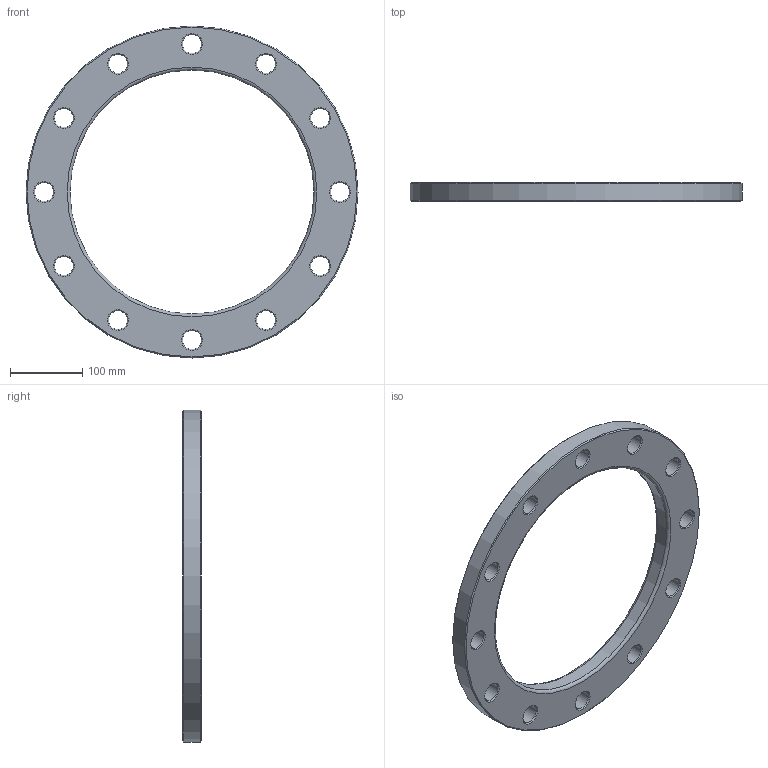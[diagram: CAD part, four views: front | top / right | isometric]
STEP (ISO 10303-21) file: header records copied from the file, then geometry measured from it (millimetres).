
FILE_DESCRIPTION(/* description */ ('Unknown'),/* implementation_level */ '2;1');
FILE_NAME(/* name */ 'FZ315C',/* time_stamp */ '2021-03-15T12:16:44+01:00',/* author */ ('Unknown'),/* organization */ ('Unknown'),/* preprocessor_version */ 'ST-DEVELOPER v16.7',/* originating_system */ 'Solid Edge',/* authorisation */ 'Unknown');
FILE_SCHEMA (('AUTOMOTIVE_DESIGN {1 0 10303 214 3 1 1}'));
Length unit declared in the file: millimetre
Products named in the file (1): FZ315C
Bounding box: 460 x 26 x 460 mm (x, y, z)
Volume: 1809528.6 mm3; surface area: 223021 mm2
Topology: 1 solids, 1 shells, 44 faces, 134 edges, 92 vertices
Faces by surface type: cone 26, cylinder 14, plane 2, torus 2
Full cylindrical faces by diameter (mm): 26 x12, 338 x1, 460 x1
Entity records: 1086 total; most frequent: DIRECTION 202, CARTESIAN_POINT 157, ORIENTED_EDGE 112, EDGE_LOOP 112, FACE_BOUND 112, AXIS2_PLACEMENT_3D 101, EDGE_CURVE 56, VERTEX_POINT 56
